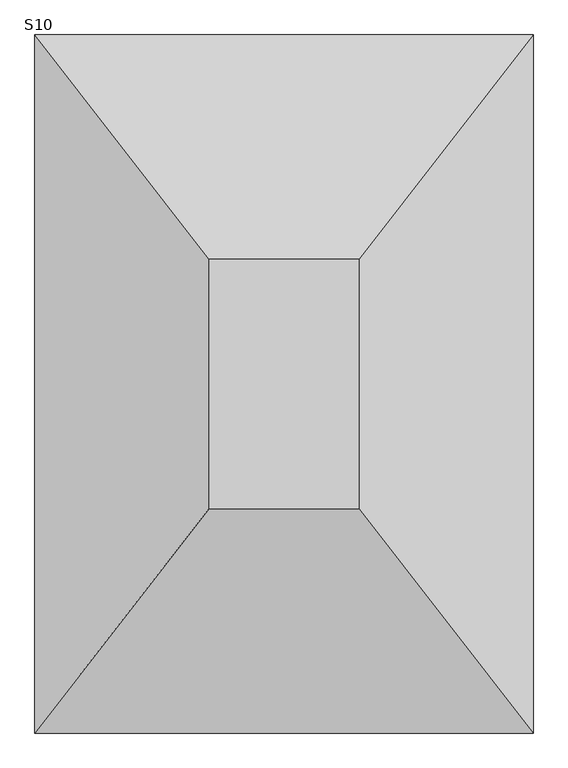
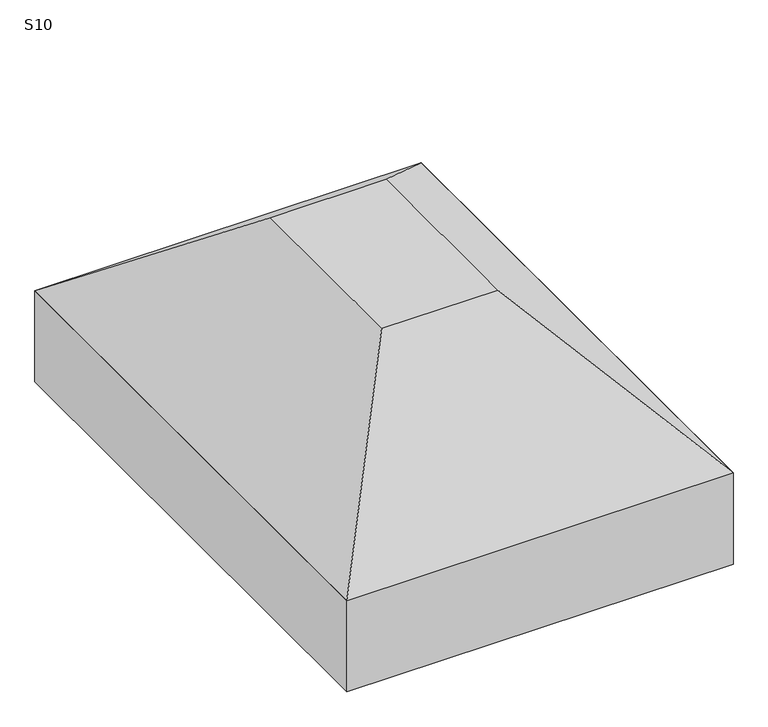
"""IFC4 building model written with IfcOpenShell, lengths in millimetres: fastener geometry, TQS - Sapata : S10."""

from ifc_helpers import new_model, si_unit, frame, origin, place, context, project, spatial, polyline, outline, extrude, faceted_brep, source, transform, mapped, element, save


def s10_b3591f86(model_context):
    return source(origin(), model_context, "Body", "SolidModel", [
        faceted_brep([(-50.0, 50.0, 0.0), (-350.0, 50.0, 0.0), (-350.0, -450.0, 0.0), (-50.0, -450.0, 0.0), (300.0, 500.0, -350.0), (300.0, -900.0, -350.0), (-700.0, -900.0, -350.0), (-700.0, 500.0, -350.0)], [[[0, 1, 2, 3]], [[4, 5, 6, 7]], [[4, 7, 1, 0]], [[7, 6, 2, 1]], [[6, 5, 3, 2]], [[5, 4, 0, 3]]]),
        extrude(outline(polyline([(300.0, 500.0), (300.0, -900.0), (-700.0, -900.0), (-700.0, 500.0), (300.0, 500.0)])), frame((0.0, 0.0, -600.0), z_axis=(0.0, 0.0, 1.0), x_axis=(1.0, 0.0, 0.0)), (0.0, 0.0, 1.0), 250.0),
    ])


if __name__ == "__main__":
    model = new_model("IFC4")
    model_context = context("Model", 3, world=origin())
    ifc_project = project(units=[si_unit("LENGTHUNIT", "METRE", prefix="MILLI")], contexts=[model_context])
    site = spatial("IfcSite", under=ifc_project)
    building = spatial("IfcBuilding", under=site)
    placement = place(None, origin())
    s10_shape = s10_b3591f86(model_context)
    element("IfcFastener", 1, ObjectType="TQS - Sapata : S10", at=placement, inside=building, context=model_context, shape_type="MappedRepresentation", body=[
        mapped(s10_shape, transform((0.0, 0.0, 0.0), x_axis=(1.0, 0.0, 0.0), y_axis=(0.0, 1.0, 0.0), z_axis=(0.0, 0.0, 1.0))),
    ])
    save(model, "model.ifc")
